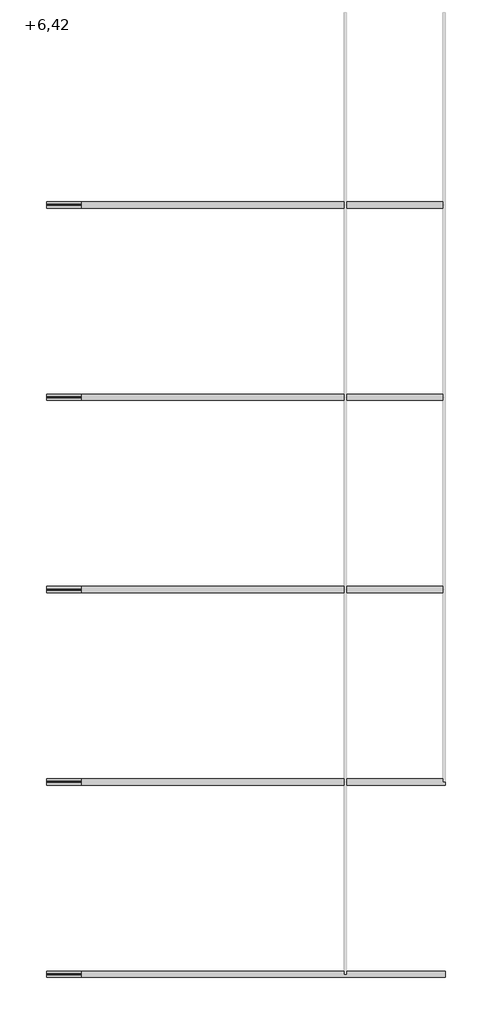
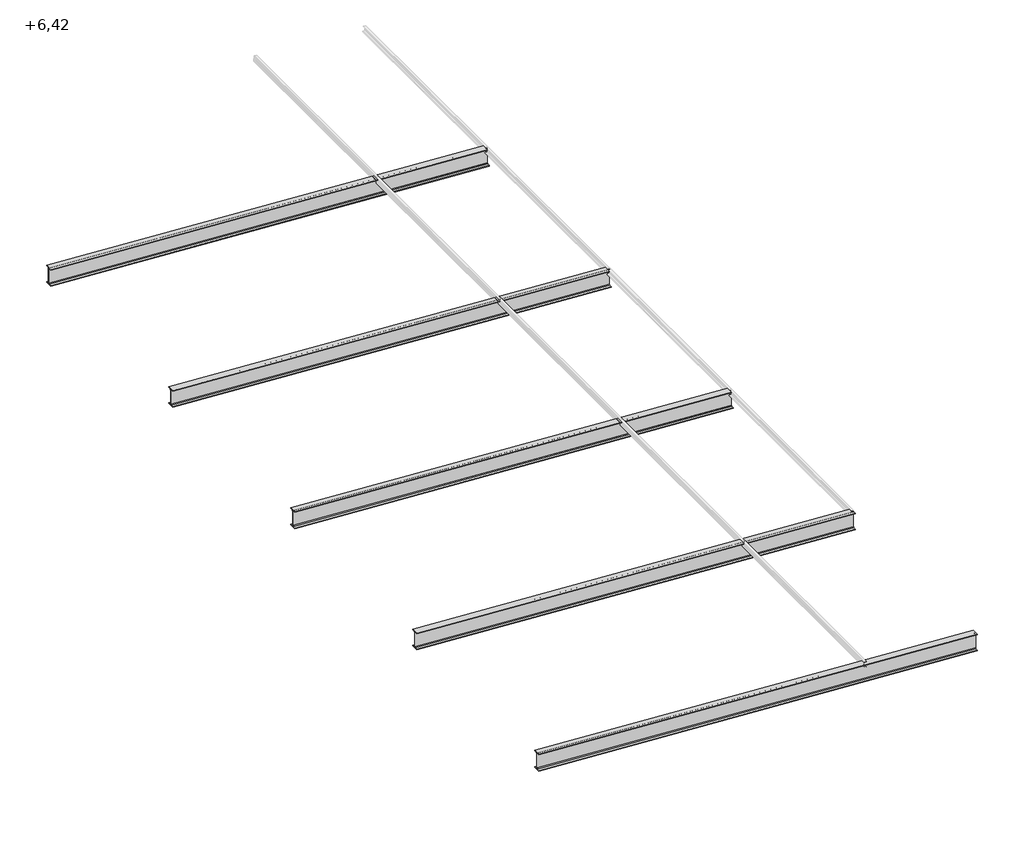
# One storey, part 1 of 2: 5 beams.
"""IFC4 building model written with IfcOpenShell, lengths in millimetres."""

from ifc_helpers import new_model, si_unit, frame, origin, place, context, project, spatial, polyline, ellipse_curve, element, save
from ifc_brep_helpers import plane_surface, revolved_surface, advanced_brep

model = new_model("IFC4")

# Units and contexts
model_context = context("Model", 3, world=origin())
ifc_project = project(units=[si_unit("LENGTHUNIT", "METRE", prefix="MILLI")], contexts=[model_context])

# Site, building, storey
site = spatial("IfcSite", under=ifc_project)
building = spatial("IfcBuilding", under=site)
storey = spatial("IfcBuildingStorey", under=building, Name="+6,42", Elevation=6424.0)

# Beams
placement = place(None, origin())
element("IfcBeam", 1, ObjectType="RPLN IPE - Dwuteowniki równoległościenne : I500PE", at=placement, inside=storey, context=model_context, shape_type="AdvancedBrep", body=[
    advanced_brep(
    [(-8321.7693703, -36886.3816585, 7205.3741212), (-8321.7693703, -36812.4816585, 7205.3741212), (-8321.766713, -36812.4816585, 7189.3447052), (-8321.766713, -37012.4816585, 7189.3447052), (-8321.7693703, -37012.4816585, 7205.3741212), (-8321.7693703, -36938.5816585, 7205.3741212), (-8321.7728579, -36917.5816585, 7226.4127298), (-8321.8436076, -36917.5816585, 7653.1959312), (-8321.8470953, -36938.5816585, 7674.2345398), (-8321.8470953, -37012.4816585, 7674.2345398), (-8321.8497525, -37012.4816585, 7690.2639558), (-8321.8497525, -36812.4816585, 7690.2639558), (-8321.8470953, -36812.4816585, 7674.2345398), (-8321.8470953, -36886.3816585, 7674.2345398), (-8321.8436076, -36907.3816585, 7653.1959312), (-8321.7728579, -36907.3816585, 7226.4127298), (4132.9926321, -36812.4816585, 6451.8610201), (4132.9926321, -36886.3816585, 6451.8610201), (4132.9926321, -36907.3816585, 6472.8994176), (4132.9926321, -36907.3816585, 6899.6783387), (4132.9926321, -36886.3816585, 6920.7167363), (4132.9926321, -36812.4816585, 6920.7167363), (4132.9926321, -36812.4816585, 6936.7459915), (4132.9926321, -37012.4816585, 6936.7459915), (4132.9926321, -37012.4816585, 6920.7167363), (4132.9926321, -36938.5816585, 6920.7167363), (4132.9926321, -36917.5816585, 6899.6783387), (4132.9926321, -36917.5816585, 6472.8994176), (4132.9926321, -36938.5816585, 6451.8610201), (4132.9926321, -37012.4816585, 6451.8610201), (4132.9926321, -37012.4816585, 6435.8317648), (4132.9926321, -36812.4816585, 6435.8317648)],
    [
        (0, 1),
        (1, 2),
        (2, 3),
        (3, 4),
        (4, 5),
        (5, 6, ellipse_curve(frame((-8321.7728579, -36938.5816585, 7226.4127298), z_axis=(0.9999999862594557, 0.0, 0.0001657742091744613), x_axis=(-0.00016577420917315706, 0.0, 0.9999999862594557)), 21.0386088, 21.0)),
        (6, 7),
        (7, 8, ellipse_curve(frame((-8321.8436076, -36938.5816585, 7653.1959312), z_axis=(0.9999999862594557, 0.0, 0.0001657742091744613), x_axis=(-0.00016577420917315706, 0.0, 0.9999999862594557)), 21.0386088, 21.0)),
        (8, 9),
        (9, 10),
        (10, 11),
        (11, 12),
        (12, 13),
        (13, 14, ellipse_curve(frame((-8321.8436076, -36886.3816585, 7653.1959312), z_axis=(0.9999999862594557, 0.0, 0.0001657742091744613), x_axis=(-0.00016577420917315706, 0.0, 0.9999999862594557)), 21.0386088, 21.0)),
        (14, 15),
        (15, 0, ellipse_curve(frame((-8321.7728579, -36886.3816585, 7226.4127298), z_axis=(0.9999999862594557, 0.0, 0.0001657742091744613), x_axis=(-0.00016577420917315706, 0.0, 0.9999999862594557)), 21.0386088, 21.0)),
        (16, 17),
        (17, 18, ellipse_curve(frame((4132.9926321, -36886.3816585, 6472.8994176), z_axis=(-1.0, 0.0, 0.0), x_axis=(0.0, 0.0, 0.9999999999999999)), 21.0383975, 21.0)),
        (18, 19),
        (19, 20, ellipse_curve(frame((4132.9926321, -36886.3816585, 6899.6783387), z_axis=(-1.0, 0.0, 0.0), x_axis=(0.0, 0.0, 0.9999999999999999)), 21.0383975, 21.0)),
        (20, 21),
        (21, 22),
        (22, 23),
        (23, 24),
        (24, 25),
        (25, 26, ellipse_curve(frame((4132.9926321, -36938.5816585, 6899.6783387), z_axis=(-1.0, 0.0, 0.0), x_axis=(0.0, 0.0, 0.9999999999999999)), 21.0383975, 21.0)),
        (26, 27),
        (27, 28, ellipse_curve(frame((4132.9926321, -36938.5816585, 6472.8994176), z_axis=(-1.0, 0.0, 0.0), x_axis=(0.0, 0.0, 0.9999999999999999)), 21.0383975, 21.0)),
        (28, 29),
        (29, 30),
        (30, 31),
        (31, 16),
        (16, 1),
        (0, 17),
        (31, 2),
        (30, 3),
        (29, 4),
        (28, 5),
        (27, 6),
        (26, 7),
        (25, 8),
        (24, 9),
        (23, 10),
        (22, 11),
        (21, 12),
        (20, 13),
        (19, 14),
        (18, 15),
    ],
    [
        plane_surface(frame((-8321.6325431, -36912.4816585, 6379.9913475), z_axis=(-0.9999999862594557, 0.0, -0.0001657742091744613), x_axis=(0.0001657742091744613, 0.0, -0.9999999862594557))),
        plane_surface(frame((4132.9926321, -36912.4816585, 6983.0025864), z_axis=(1.0, 0.0, 0.0), x_axis=(0.0, 0.0, 1.0))),
        plane_surface(frame((4227.795571, -36812.4816585, 6446.1254423), z_axis=(0.06038958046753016, 0.0, 0.9981748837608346), x_axis=(-0.9981748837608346, 0.0, 0.06038958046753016))),
        plane_surface(frame((4226.8293377, -36812.4816585, 6430.1546441), z_axis=(0.0, 1.0, 0.0), x_axis=(-0.9981748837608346, 0.0, 0.06038958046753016))),
        plane_surface(frame((4226.8293377, -37012.4816585, 6430.1546441), z_axis=(-0.06038958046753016, 0.0, -0.9981748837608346), x_axis=(-0.9981748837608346, 0.0, 0.06038958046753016))),
        plane_surface(frame((4227.795571, -37012.4816585, 6446.1254423), z_axis=(0.0, -1.0, 0.0), x_axis=(-0.9981748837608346, 0.0, 0.06038958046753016))),
        plane_surface(frame((4227.795571, -36938.5816585, 6446.1254423), z_axis=(0.06038958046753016, 0.0, 0.9981748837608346), x_axis=(-0.9981748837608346, 0.0, 0.06038958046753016))),
        revolved_surface(polyline([(-8323.044526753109, -36959.5816585, 7226.489665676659), (4134.260813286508, -36959.5816585, 6472.822692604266)]), (4229.0637522, -36938.5816585, 6467.0871148), (-0.9981748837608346, 0.0, 0.06038958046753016)),
        plane_surface(frame((4254.7897134, -36917.5816585, 6892.3096153), z_axis=(0.0, -1.0, 0.0), x_axis=(-0.9981748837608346, 0.0, 0.06038958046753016))),
        revolved_surface(polyline([(-8323.115276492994, -36959.5816585, 7653.272867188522), (4134.260813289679, -36959.5816585, 6899.601613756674)]), (4254.7897134, -36938.5816585, 6892.3096153), (-0.9981748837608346, 0.0, 0.06038958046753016)),
        plane_surface(frame((4256.0578946, -37012.4816585, 6913.2712879), z_axis=(-0.06038958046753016, 0.0, -0.9981748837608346), x_axis=(-0.9981748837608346, 0.0, 0.06038958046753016))),
        plane_surface(frame((4257.0241279, -37012.4816585, 6929.242086), z_axis=(0.0, -1.0, 0.0), x_axis=(-0.9981748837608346, 0.0, 0.06038958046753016))),
        plane_surface(frame((4257.0241279, -36812.4816585, 6929.242086), z_axis=(0.06038958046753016, 0.0, 0.9981748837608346), x_axis=(-0.9981748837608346, 0.0, 0.06038958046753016))),
        plane_surface(frame((4256.0578946, -36812.4816585, 6913.2712879), z_axis=(0.0, 1.0, 0.0), x_axis=(-0.9981748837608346, 0.0, 0.06038958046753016))),
        plane_surface(frame((4256.0578946, -36886.3816585, 6913.2712879), z_axis=(-0.06038958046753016, 0.0, -0.9981748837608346), x_axis=(-0.9981748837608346, 0.0, 0.06038958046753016))),
        revolved_surface(polyline([(-8323.115276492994, -36907.3816585, 7653.272867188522), (4134.260813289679, -36907.3816585, 6899.601613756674)]), (4254.7897134, -36886.3816585, 6892.3096153), (-0.9981748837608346, 0.0, 0.06038958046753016)),
        plane_surface(frame((4229.0637522, -36907.3816585, 6467.0871148), z_axis=(0.0, 1.0, 0.0), x_axis=(-0.9981748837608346, 0.0, 0.06038958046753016))),
        revolved_surface(polyline([(-8323.044526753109, -36907.3816585, 7226.489665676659), (4134.260813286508, -36907.3816585, 6472.822692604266)]), (4229.0637522, -36886.3816585, 6467.0871148), (-0.9981748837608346, 0.0, 0.06038958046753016)),
    ],
    [
        (0, [[1, 2, 3, 4, 5, 6, 7, 8, 9, 10, 11, 12, 13, 14, 15, 16]]),
        (1, [[17, 18, 19, 20, 21, 22, 23, 24, 25, 26, 27, 28, 29, 30, 31, 32]]),
        (2, [[33, -1, 34, -17]]),
        (3, [[35, -2, -33, -32]]),
        (4, [[36, -3, -35, -31]]),
        (5, [[37, -4, -36, -30]]),
        (6, [[38, -5, -37, -29]]),
        (7, [[39, -6, -38, -28]]),
        (8, [[40, -7, -39, -27]]),
        (9, [[41, -8, -40, -26]]),
        (10, [[42, -9, -41, -25]]),
        (11, [[43, -10, -42, -24]]),
        (12, [[44, -11, -43, -23]]),
        (13, [[45, -12, -44, -22]]),
        (14, [[46, -13, -45, -21]]),
        (15, [[47, -14, -46, -20]]),
        (16, [[48, -15, -47, -19]]),
        (17, [[-34, -16, -48, -18]]),
    ],
),
])
element("IfcBeam", 2, ObjectType="RPLN IPE - Dwuteowniki równoległościenne : I500PE", at=placement, inside=storey, context=model_context, shape_type="AdvancedBrep", body=[
    advanced_brep(
    [(-8321.7693703, -30886.3816585, 7205.3741212), (-8321.7693703, -30812.4816585, 7205.3741212), (-8321.766713, -30812.4816585, 7189.3447052), (-8321.766713, -31012.4816585, 7189.3447052), (-8321.7693703, -31012.4816585, 7205.3741212), (-8321.7693703, -30938.5816585, 7205.3741212), (-8321.7728579, -30917.5816585, 7226.4127298), (-8321.8436076, -30917.5816585, 7653.1959312), (-8321.8470953, -30938.5816585, 7674.2345398), (-8321.8470953, -31012.4816585, 7674.2345398), (-8321.8497525, -31012.4816585, 7690.2639558), (-8321.8497525, -30812.4816585, 7690.2639558), (-8321.8470953, -30812.4816585, 7674.2345398), (-8321.8470953, -30886.3816585, 7674.2345398), (-8321.8436076, -30907.3816585, 7653.1959312), (-8321.7728579, -30907.3816585, 7226.4127298), (4132.9926321, -30812.4816585, 6451.8610201), (4132.9926321, -30886.3816585, 6451.8610201), (4132.9926321, -30907.3816585, 6472.8994176), (4132.9926321, -30907.3816585, 6899.6783387), (4132.9926321, -30886.3816585, 6920.7167363), (4132.9926321, -30812.4816585, 6920.7167363), (4132.9926321, -30812.4816585, 6936.7459915), (4132.9926321, -31012.4816585, 6936.7459915), (4132.9926321, -31012.4816585, 6920.7167363), (4132.9926321, -30938.5816585, 6920.7167363), (4132.9926321, -30917.5816585, 6899.6783387), (4132.9926321, -30917.5816585, 6472.8994176), (4132.9926321, -30938.5816585, 6451.8610201), (4132.9926321, -31012.4816585, 6451.8610201), (4132.9926321, -31012.4816585, 6435.8317648), (4132.9926321, -30812.4816585, 6435.8317648)],
    [
        (0, 1),
        (1, 2),
        (2, 3),
        (3, 4),
        (4, 5),
        (5, 6, ellipse_curve(frame((-8321.7728579, -30938.5816585, 7226.4127298), z_axis=(0.9999999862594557, 0.0, 0.0001657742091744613), x_axis=(-0.00016577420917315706, 0.0, 0.9999999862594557)), 21.0386088, 21.0)),
        (6, 7),
        (7, 8, ellipse_curve(frame((-8321.8436076, -30938.5816585, 7653.1959312), z_axis=(0.9999999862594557, 0.0, 0.0001657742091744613), x_axis=(-0.00016577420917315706, 0.0, 0.9999999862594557)), 21.0386088, 21.0)),
        (8, 9),
        (9, 10),
        (10, 11),
        (11, 12),
        (12, 13),
        (13, 14, ellipse_curve(frame((-8321.8436076, -30886.3816585, 7653.1959312), z_axis=(0.9999999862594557, 0.0, 0.0001657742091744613), x_axis=(-0.00016577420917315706, 0.0, 0.9999999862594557)), 21.0386088, 21.0)),
        (14, 15),
        (15, 0, ellipse_curve(frame((-8321.7728579, -30886.3816585, 7226.4127298), z_axis=(0.9999999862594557, 0.0, 0.0001657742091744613), x_axis=(-0.00016577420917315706, 0.0, 0.9999999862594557)), 21.0386088, 21.0)),
        (16, 17),
        (17, 18, ellipse_curve(frame((4132.9926321, -30886.3816585, 6472.8994176), z_axis=(-1.0, 0.0, 0.0), x_axis=(0.0, 0.0, 0.9999999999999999)), 21.0383975, 21.0)),
        (18, 19),
        (19, 20, ellipse_curve(frame((4132.9926321, -30886.3816585, 6899.6783387), z_axis=(-1.0, 0.0, 0.0), x_axis=(0.0, 0.0, 0.9999999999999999)), 21.0383975, 21.0)),
        (20, 21),
        (21, 22),
        (22, 23),
        (23, 24),
        (24, 25),
        (25, 26, ellipse_curve(frame((4132.9926321, -30938.5816585, 6899.6783387), z_axis=(-1.0, 0.0, 0.0), x_axis=(0.0, 0.0, 0.9999999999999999)), 21.0383975, 21.0)),
        (26, 27),
        (27, 28, ellipse_curve(frame((4132.9926321, -30938.5816585, 6472.8994176), z_axis=(-1.0, 0.0, 0.0), x_axis=(0.0, 0.0, 0.9999999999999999)), 21.0383975, 21.0)),
        (28, 29),
        (29, 30),
        (30, 31),
        (31, 16),
        (16, 1),
        (0, 17),
        (31, 2),
        (30, 3),
        (29, 4),
        (28, 5),
        (27, 6),
        (26, 7),
        (25, 8),
        (24, 9),
        (23, 10),
        (22, 11),
        (21, 12),
        (20, 13),
        (19, 14),
        (18, 15),
    ],
    [
        plane_surface(frame((-8321.6325431, -36912.4816585, 6379.9913475), z_axis=(-0.9999999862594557, 0.0, -0.0001657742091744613), x_axis=(0.0001657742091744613, 0.0, -0.9999999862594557))),
        plane_surface(frame((4132.9926321, -36912.4816585, 6983.0025864), z_axis=(1.0, 0.0, 0.0), x_axis=(0.0, 0.0, 1.0))),
        plane_surface(frame((4227.795571, -30812.4816585, 6446.1254423), z_axis=(0.06038958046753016, 0.0, 0.9981748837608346), x_axis=(-0.9981748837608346, 0.0, 0.06038958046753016))),
        plane_surface(frame((4226.8293377, -30812.4816585, 6430.1546441), z_axis=(0.0, 1.0, 0.0), x_axis=(-0.9981748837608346, 0.0, 0.06038958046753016))),
        plane_surface(frame((4226.8293377, -31012.4816585, 6430.1546441), z_axis=(-0.06038958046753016, 0.0, -0.9981748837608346), x_axis=(-0.9981748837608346, 0.0, 0.06038958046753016))),
        plane_surface(frame((4227.795571, -31012.4816585, 6446.1254423), z_axis=(0.0, -1.0, 0.0), x_axis=(-0.9981748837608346, 0.0, 0.06038958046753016))),
        plane_surface(frame((4227.795571, -30938.5816585, 6446.1254423), z_axis=(0.06038958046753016, 0.0, 0.9981748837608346), x_axis=(-0.9981748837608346, 0.0, 0.06038958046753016))),
        revolved_surface(polyline([(-8323.044526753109, -30959.5816585, 7226.489665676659), (4134.260813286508, -30959.5816585, 6472.822692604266)]), (4229.0637522, -30938.5816585, 6467.0871148), (-0.9981748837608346, 0.0, 0.06038958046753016)),
        plane_surface(frame((4254.7897134, -30917.5816585, 6892.3096153), z_axis=(0.0, -1.0, 0.0), x_axis=(-0.9981748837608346, 0.0, 0.06038958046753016))),
        revolved_surface(polyline([(-8323.115276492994, -30959.5816585, 7653.272867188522), (4134.260813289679, -30959.5816585, 6899.601613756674)]), (4254.7897134, -30938.5816585, 6892.3096153), (-0.9981748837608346, 0.0, 0.06038958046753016)),
        plane_surface(frame((4256.0578946, -31012.4816585, 6913.2712879), z_axis=(-0.06038958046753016, 0.0, -0.9981748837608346), x_axis=(-0.9981748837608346, 0.0, 0.06038958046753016))),
        plane_surface(frame((4257.0241279, -31012.4816585, 6929.242086), z_axis=(0.0, -1.0, 0.0), x_axis=(-0.9981748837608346, 0.0, 0.06038958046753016))),
        plane_surface(frame((4257.0241279, -30812.4816585, 6929.242086), z_axis=(0.06038958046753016, 0.0, 0.9981748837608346), x_axis=(-0.9981748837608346, 0.0, 0.06038958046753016))),
        plane_surface(frame((4256.0578946, -30812.4816585, 6913.2712879), z_axis=(0.0, 1.0, 0.0), x_axis=(-0.9981748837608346, 0.0, 0.06038958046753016))),
        plane_surface(frame((4256.0578946, -30886.3816585, 6913.2712879), z_axis=(-0.06038958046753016, 0.0, -0.9981748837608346), x_axis=(-0.9981748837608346, 0.0, 0.06038958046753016))),
        revolved_surface(polyline([(-8323.115276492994, -30907.3816585, 7653.272867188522), (4134.260813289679, -30907.3816585, 6899.601613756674)]), (4254.7897134, -30886.3816585, 6892.3096153), (-0.9981748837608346, 0.0, 0.06038958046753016)),
        plane_surface(frame((4229.0637522, -30907.3816585, 6467.0871148), z_axis=(0.0, 1.0, 0.0), x_axis=(-0.9981748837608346, 0.0, 0.06038958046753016))),
        revolved_surface(polyline([(-8323.044526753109, -30907.3816585, 7226.489665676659), (4134.260813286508, -30907.3816585, 6472.822692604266)]), (4229.0637522, -30886.3816585, 6467.0871148), (-0.9981748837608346, 0.0, 0.06038958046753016)),
    ],
    [
        (0, [[1, 2, 3, 4, 5, 6, 7, 8, 9, 10, 11, 12, 13, 14, 15, 16]]),
        (1, [[17, 18, 19, 20, 21, 22, 23, 24, 25, 26, 27, 28, 29, 30, 31, 32]]),
        (2, [[33, -1, 34, -17]]),
        (3, [[35, -2, -33, -32]]),
        (4, [[36, -3, -35, -31]]),
        (5, [[37, -4, -36, -30]]),
        (6, [[38, -5, -37, -29]]),
        (7, [[39, -6, -38, -28]]),
        (8, [[40, -7, -39, -27]]),
        (9, [[41, -8, -40, -26]]),
        (10, [[42, -9, -41, -25]]),
        (11, [[43, -10, -42, -24]]),
        (12, [[44, -11, -43, -23]]),
        (13, [[45, -12, -44, -22]]),
        (14, [[46, -13, -45, -21]]),
        (15, [[47, -14, -46, -20]]),
        (16, [[48, -15, -47, -19]]),
        (17, [[-34, -16, -48, -18]]),
    ],
),
])
element("IfcBeam", 3, ObjectType="RPLN IPE - Dwuteowniki równoległościenne : I500PE", at=placement, inside=storey, context=model_context, shape_type="AdvancedBrep", body=[
    advanced_brep(
    [(-8321.7693703, -24886.3816585, 7205.3741212), (-8321.7693703, -24812.4816585, 7205.3741212), (-8321.766713, -24812.4816585, 7189.3447052), (-8321.766713, -25012.4816585, 7189.3447052), (-8321.7693703, -25012.4816585, 7205.3741212), (-8321.7693703, -24938.5816585, 7205.3741212), (-8321.7728579, -24917.5816585, 7226.4127298), (-8321.8436076, -24917.5816585, 7653.1959312), (-8321.8470953, -24938.5816585, 7674.2345398), (-8321.8470953, -25012.4816585, 7674.2345398), (-8321.8497525, -25012.4816585, 7690.2639558), (-8321.8497525, -24812.4816585, 7690.2639558), (-8321.8470953, -24812.4816585, 7674.2345398), (-8321.8470953, -24886.3816585, 7674.2345398), (-8321.8436076, -24907.3816585, 7653.1959312), (-8321.7728579, -24907.3816585, 7226.4127298), (4132.9926321, -24812.4816585, 6451.8610201), (4132.9926321, -24886.3816585, 6451.8610201), (4132.9926321, -24907.3816585, 6472.8994176), (4132.9926321, -24907.3816585, 6899.6783387), (4132.9926321, -24886.3816585, 6920.7167363), (4132.9926321, -24812.4816585, 6920.7167363), (4132.9926321, -24812.4816585, 6936.7459915), (4132.9926321, -25012.4816585, 6936.7459915), (4132.9926321, -25012.4816585, 6920.7167363), (4132.9926321, -24938.5816585, 6920.7167363), (4132.9926321, -24917.5816585, 6899.6783387), (4132.9926321, -24917.5816585, 6472.8994176), (4132.9926321, -24938.5816585, 6451.8610201), (4132.9926321, -25012.4816585, 6451.8610201), (4132.9926321, -25012.4816585, 6435.8317648), (4132.9926321, -24812.4816585, 6435.8317648)],
    [
        (0, 1),
        (1, 2),
        (2, 3),
        (3, 4),
        (4, 5),
        (5, 6, ellipse_curve(frame((-8321.7728579, -24938.5816585, 7226.4127298), z_axis=(0.9999999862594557, 0.0, 0.0001657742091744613), x_axis=(-0.00016577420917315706, 0.0, 0.9999999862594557)), 21.0386088, 21.0)),
        (6, 7),
        (7, 8, ellipse_curve(frame((-8321.8436076, -24938.5816585, 7653.1959312), z_axis=(0.9999999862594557, 0.0, 0.0001657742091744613), x_axis=(-0.00016577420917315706, 0.0, 0.9999999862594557)), 21.0386088, 21.0)),
        (8, 9),
        (9, 10),
        (10, 11),
        (11, 12),
        (12, 13),
        (13, 14, ellipse_curve(frame((-8321.8436076, -24886.3816585, 7653.1959312), z_axis=(0.9999999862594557, 0.0, 0.0001657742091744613), x_axis=(-0.00016577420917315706, 0.0, 0.9999999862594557)), 21.0386088, 21.0)),
        (14, 15),
        (15, 0, ellipse_curve(frame((-8321.7728579, -24886.3816585, 7226.4127298), z_axis=(0.9999999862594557, 0.0, 0.0001657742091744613), x_axis=(-0.00016577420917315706, 0.0, 0.9999999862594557)), 21.0386088, 21.0)),
        (16, 17),
        (17, 18, ellipse_curve(frame((4132.9926321, -24886.3816585, 6472.8994176), z_axis=(-1.0, 0.0, 0.0), x_axis=(0.0, 0.0, 0.9999999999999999)), 21.0383975, 21.0)),
        (18, 19),
        (19, 20, ellipse_curve(frame((4132.9926321, -24886.3816585, 6899.6783387), z_axis=(-1.0, 0.0, 0.0), x_axis=(0.0, 0.0, 0.9999999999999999)), 21.0383975, 21.0)),
        (20, 21),
        (21, 22),
        (22, 23),
        (23, 24),
        (24, 25),
        (25, 26, ellipse_curve(frame((4132.9926321, -24938.5816585, 6899.6783387), z_axis=(-1.0, 0.0, 0.0), x_axis=(0.0, 0.0, 0.9999999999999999)), 21.0383975, 21.0)),
        (26, 27),
        (27, 28, ellipse_curve(frame((4132.9926321, -24938.5816585, 6472.8994176), z_axis=(-1.0, 0.0, 0.0), x_axis=(0.0, 0.0, 0.9999999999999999)), 21.0383975, 21.0)),
        (28, 29),
        (29, 30),
        (30, 31),
        (31, 16),
        (16, 1),
        (0, 17),
        (31, 2),
        (30, 3),
        (29, 4),
        (28, 5),
        (27, 6),
        (26, 7),
        (25, 8),
        (24, 9),
        (23, 10),
        (22, 11),
        (21, 12),
        (20, 13),
        (19, 14),
        (18, 15),
    ],
    [
        plane_surface(frame((-8321.6325431, -36912.4816585, 6379.9913475), z_axis=(-0.9999999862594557, 0.0, -0.0001657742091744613), x_axis=(0.0001657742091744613, 0.0, -0.9999999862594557))),
        plane_surface(frame((4132.9926321, -36912.4816585, 6983.0025864), z_axis=(1.0, 0.0, 0.0), x_axis=(0.0, 0.0, 1.0))),
        plane_surface(frame((4227.795571, -24812.4816585, 6446.1254423), z_axis=(0.06038958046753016, 0.0, 0.9981748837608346), x_axis=(-0.9981748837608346, 0.0, 0.06038958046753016))),
        plane_surface(frame((4226.8293377, -24812.4816585, 6430.1546441), z_axis=(0.0, 1.0, 0.0), x_axis=(-0.9981748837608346, 0.0, 0.06038958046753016))),
        plane_surface(frame((4226.8293377, -25012.4816585, 6430.1546441), z_axis=(-0.06038958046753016, 0.0, -0.9981748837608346), x_axis=(-0.9981748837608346, 0.0, 0.06038958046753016))),
        plane_surface(frame((4227.795571, -25012.4816585, 6446.1254423), z_axis=(0.0, -1.0, 0.0), x_axis=(-0.9981748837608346, 0.0, 0.06038958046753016))),
        plane_surface(frame((4227.795571, -24938.5816585, 6446.1254423), z_axis=(0.06038958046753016, 0.0, 0.9981748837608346), x_axis=(-0.9981748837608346, 0.0, 0.06038958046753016))),
        revolved_surface(polyline([(-8323.044526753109, -24959.5816585, 7226.489665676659), (4134.260813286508, -24959.5816585, 6472.822692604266)]), (4229.0637522, -24938.5816585, 6467.0871148), (-0.9981748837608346, 0.0, 0.06038958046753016)),
        plane_surface(frame((4254.7897134, -24917.5816585, 6892.3096153), z_axis=(0.0, -1.0, 0.0), x_axis=(-0.9981748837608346, 0.0, 0.06038958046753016))),
        revolved_surface(polyline([(-8323.115276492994, -24959.5816585, 7653.272867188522), (4134.260813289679, -24959.5816585, 6899.601613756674)]), (4254.7897134, -24938.5816585, 6892.3096153), (-0.9981748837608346, 0.0, 0.06038958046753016)),
        plane_surface(frame((4256.0578946, -25012.4816585, 6913.2712879), z_axis=(-0.06038958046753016, 0.0, -0.9981748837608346), x_axis=(-0.9981748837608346, 0.0, 0.06038958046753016))),
        plane_surface(frame((4257.0241279, -25012.4816585, 6929.242086), z_axis=(0.0, -1.0, 0.0), x_axis=(-0.9981748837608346, 0.0, 0.06038958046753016))),
        plane_surface(frame((4257.0241279, -24812.4816585, 6929.242086), z_axis=(0.06038958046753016, 0.0, 0.9981748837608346), x_axis=(-0.9981748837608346, 0.0, 0.06038958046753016))),
        plane_surface(frame((4256.0578946, -24812.4816585, 6913.2712879), z_axis=(0.0, 1.0, 0.0), x_axis=(-0.9981748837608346, 0.0, 0.06038958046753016))),
        plane_surface(frame((4256.0578946, -24886.3816585, 6913.2712879), z_axis=(-0.06038958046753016, 0.0, -0.9981748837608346), x_axis=(-0.9981748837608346, 0.0, 0.06038958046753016))),
        revolved_surface(polyline([(-8323.115276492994, -24907.3816585, 7653.272867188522), (4134.260813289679, -24907.3816585, 6899.601613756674)]), (4254.7897134, -24886.3816585, 6892.3096153), (-0.9981748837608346, 0.0, 0.06038958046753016)),
        plane_surface(frame((4229.0637522, -24907.3816585, 6467.0871148), z_axis=(0.0, 1.0, 0.0), x_axis=(-0.9981748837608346, 0.0, 0.06038958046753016))),
        revolved_surface(polyline([(-8323.044526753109, -24907.3816585, 7226.489665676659), (4134.260813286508, -24907.3816585, 6472.822692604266)]), (4229.0637522, -24886.3816585, 6467.0871148), (-0.9981748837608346, 0.0, 0.06038958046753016)),
    ],
    [
        (0, [[1, 2, 3, 4, 5, 6, 7, 8, 9, 10, 11, 12, 13, 14, 15, 16]]),
        (1, [[17, 18, 19, 20, 21, 22, 23, 24, 25, 26, 27, 28, 29, 30, 31, 32]]),
        (2, [[33, -1, 34, -17]]),
        (3, [[35, -2, -33, -32]]),
        (4, [[36, -3, -35, -31]]),
        (5, [[37, -4, -36, -30]]),
        (6, [[38, -5, -37, -29]]),
        (7, [[39, -6, -38, -28]]),
        (8, [[40, -7, -39, -27]]),
        (9, [[41, -8, -40, -26]]),
        (10, [[42, -9, -41, -25]]),
        (11, [[43, -10, -42, -24]]),
        (12, [[44, -11, -43, -23]]),
        (13, [[45, -12, -44, -22]]),
        (14, [[46, -13, -45, -21]]),
        (15, [[47, -14, -46, -20]]),
        (16, [[48, -15, -47, -19]]),
        (17, [[-34, -16, -48, -18]]),
    ],
),
])
element("IfcBeam", 4, ObjectType="RPLN IPE - Dwuteowniki równoległościenne : I500PE", at=placement, inside=storey, context=model_context, shape_type="AdvancedBrep", body=[
    advanced_brep(
    [(-8321.7693703, -18886.3816585, 7205.3741212), (-8321.7693703, -18812.4816585, 7205.3741212), (-8321.766713, -18812.4816585, 7189.3447052), (-8321.766713, -19012.4816585, 7189.3447052), (-8321.7693703, -19012.4816585, 7205.3741212), (-8321.7693703, -18938.5816585, 7205.3741212), (-8321.7728579, -18917.5816585, 7226.4127298), (-8321.8436076, -18917.5816585, 7653.1959312), (-8321.8470953, -18938.5816585, 7674.2345398), (-8321.8470953, -19012.4816585, 7674.2345398), (-8321.8497525, -19012.4816585, 7690.2639558), (-8321.8497525, -18812.4816585, 7690.2639558), (-8321.8470953, -18812.4816585, 7674.2345398), (-8321.8470953, -18886.3816585, 7674.2345398), (-8321.8436076, -18907.3816585, 7653.1959312), (-8321.7728579, -18907.3816585, 7226.4127298), (4132.9926321, -18812.4816585, 6451.8610201), (4132.9926321, -18886.3816585, 6451.8610201), (4132.9926321, -18907.3816585, 6472.8994176), (4132.9926321, -18907.3816585, 6899.6783387), (4132.9926321, -18886.3816585, 6920.7167363), (4132.9926321, -18812.4816585, 6920.7167363), (4132.9926321, -18812.4816585, 6936.7459915), (4132.9926321, -19012.4816585, 6936.7459915), (4132.9926321, -19012.4816585, 6920.7167363), (4132.9926321, -18938.5816585, 6920.7167363), (4132.9926321, -18917.5816585, 6899.6783387), (4132.9926321, -18917.5816585, 6472.8994176), (4132.9926321, -18938.5816585, 6451.8610201), (4132.9926321, -19012.4816585, 6451.8610201), (4132.9926321, -19012.4816585, 6435.8317648), (4132.9926321, -18812.4816585, 6435.8317648)],
    [
        (0, 1),
        (1, 2),
        (2, 3),
        (3, 4),
        (4, 5),
        (5, 6, ellipse_curve(frame((-8321.7728579, -18938.5816585, 7226.4127298), z_axis=(0.9999999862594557, 0.0, 0.0001657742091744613), x_axis=(-0.00016577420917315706, 0.0, 0.9999999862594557)), 21.0386088, 21.0)),
        (6, 7),
        (7, 8, ellipse_curve(frame((-8321.8436076, -18938.5816585, 7653.1959312), z_axis=(0.9999999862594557, 0.0, 0.0001657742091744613), x_axis=(-0.00016577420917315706, 0.0, 0.9999999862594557)), 21.0386088, 21.0)),
        (8, 9),
        (9, 10),
        (10, 11),
        (11, 12),
        (12, 13),
        (13, 14, ellipse_curve(frame((-8321.8436076, -18886.3816585, 7653.1959312), z_axis=(0.9999999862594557, 0.0, 0.0001657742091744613), x_axis=(-0.00016577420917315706, 0.0, 0.9999999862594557)), 21.0386088, 21.0)),
        (14, 15),
        (15, 0, ellipse_curve(frame((-8321.7728579, -18886.3816585, 7226.4127298), z_axis=(0.9999999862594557, 0.0, 0.0001657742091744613), x_axis=(-0.00016577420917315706, 0.0, 0.9999999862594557)), 21.0386088, 21.0)),
        (16, 17),
        (17, 18, ellipse_curve(frame((4132.9926321, -18886.3816585, 6472.8994176), z_axis=(-1.0, 0.0, 0.0), x_axis=(0.0, 0.0, 0.9999999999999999)), 21.0383975, 21.0)),
        (18, 19),
        (19, 20, ellipse_curve(frame((4132.9926321, -18886.3816585, 6899.6783387), z_axis=(-1.0, 0.0, 0.0), x_axis=(0.0, 0.0, 0.9999999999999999)), 21.0383975, 21.0)),
        (20, 21),
        (21, 22),
        (22, 23),
        (23, 24),
        (24, 25),
        (25, 26, ellipse_curve(frame((4132.9926321, -18938.5816585, 6899.6783387), z_axis=(-1.0, 0.0, 0.0), x_axis=(0.0, 0.0, 0.9999999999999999)), 21.0383975, 21.0)),
        (26, 27),
        (27, 28, ellipse_curve(frame((4132.9926321, -18938.5816585, 6472.8994176), z_axis=(-1.0, 0.0, 0.0), x_axis=(0.0, 0.0, 0.9999999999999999)), 21.0383975, 21.0)),
        (28, 29),
        (29, 30),
        (30, 31),
        (31, 16),
        (16, 1),
        (0, 17),
        (31, 2),
        (30, 3),
        (29, 4),
        (28, 5),
        (27, 6),
        (26, 7),
        (25, 8),
        (24, 9),
        (23, 10),
        (22, 11),
        (21, 12),
        (20, 13),
        (19, 14),
        (18, 15),
    ],
    [
        plane_surface(frame((-8321.6325431, -36912.4816585, 6379.9913475), z_axis=(-0.9999999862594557, 0.0, -0.0001657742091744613), x_axis=(0.0001657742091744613, 0.0, -0.9999999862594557))),
        plane_surface(frame((4132.9926321, -36912.4816585, 6983.0025864), z_axis=(1.0, 0.0, 0.0), x_axis=(0.0, 0.0, 1.0))),
        plane_surface(frame((4227.795571, -18812.4816585, 6446.1254423), z_axis=(0.06038958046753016, 0.0, 0.9981748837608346), x_axis=(-0.9981748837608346, 0.0, 0.06038958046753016))),
        plane_surface(frame((4226.8293377, -18812.4816585, 6430.1546441), z_axis=(0.0, 1.0, 0.0), x_axis=(-0.9981748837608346, 0.0, 0.06038958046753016))),
        plane_surface(frame((4226.8293377, -19012.4816585, 6430.1546441), z_axis=(-0.06038958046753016, 0.0, -0.9981748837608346), x_axis=(-0.9981748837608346, 0.0, 0.06038958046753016))),
        plane_surface(frame((4227.795571, -19012.4816585, 6446.1254423), z_axis=(0.0, -1.0, 0.0), x_axis=(-0.9981748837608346, 0.0, 0.06038958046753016))),
        plane_surface(frame((4227.795571, -18938.5816585, 6446.1254423), z_axis=(0.06038958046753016, 0.0, 0.9981748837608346), x_axis=(-0.9981748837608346, 0.0, 0.06038958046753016))),
        revolved_surface(polyline([(-8323.044526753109, -18959.5816585, 7226.489665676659), (4134.260813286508, -18959.5816585, 6472.822692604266)]), (4229.0637522, -18938.5816585, 6467.0871148), (-0.9981748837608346, 0.0, 0.06038958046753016)),
        plane_surface(frame((4254.7897134, -18917.5816585, 6892.3096153), z_axis=(0.0, -1.0, 0.0), x_axis=(-0.9981748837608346, 0.0, 0.06038958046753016))),
        revolved_surface(polyline([(-8323.115276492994, -18959.5816585, 7653.272867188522), (4134.260813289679, -18959.5816585, 6899.601613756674)]), (4254.7897134, -18938.5816585, 6892.3096153), (-0.9981748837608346, 0.0, 0.06038958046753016)),
        plane_surface(frame((4256.0578946, -19012.4816585, 6913.2712879), z_axis=(-0.06038958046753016, 0.0, -0.9981748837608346), x_axis=(-0.9981748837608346, 0.0, 0.06038958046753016))),
        plane_surface(frame((4257.0241279, -19012.4816585, 6929.242086), z_axis=(0.0, -1.0, 0.0), x_axis=(-0.9981748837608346, 0.0, 0.06038958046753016))),
        plane_surface(frame((4257.0241279, -18812.4816585, 6929.242086), z_axis=(0.06038958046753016, 0.0, 0.9981748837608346), x_axis=(-0.9981748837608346, 0.0, 0.06038958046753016))),
        plane_surface(frame((4256.0578946, -18812.4816585, 6913.2712879), z_axis=(0.0, 1.0, 0.0), x_axis=(-0.9981748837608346, 0.0, 0.06038958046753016))),
        plane_surface(frame((4256.0578946, -18886.3816585, 6913.2712879), z_axis=(-0.06038958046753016, 0.0, -0.9981748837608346), x_axis=(-0.9981748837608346, 0.0, 0.06038958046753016))),
        revolved_surface(polyline([(-8323.115276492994, -18907.3816585, 7653.272867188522), (4134.260813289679, -18907.3816585, 6899.601613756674)]), (4254.7897134, -18886.3816585, 6892.3096153), (-0.9981748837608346, 0.0, 0.06038958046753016)),
        plane_surface(frame((4229.0637522, -18907.3816585, 6467.0871148), z_axis=(0.0, 1.0, 0.0), x_axis=(-0.9981748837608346, 0.0, 0.06038958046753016))),
        revolved_surface(polyline([(-8323.044526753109, -18907.3816585, 7226.489665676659), (4134.260813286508, -18907.3816585, 6472.822692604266)]), (4229.0637522, -18886.3816585, 6467.0871148), (-0.9981748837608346, 0.0, 0.06038958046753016)),
    ],
    [
        (0, [[1, 2, 3, 4, 5, 6, 7, 8, 9, 10, 11, 12, 13, 14, 15, 16]]),
        (1, [[17, 18, 19, 20, 21, 22, 23, 24, 25, 26, 27, 28, 29, 30, 31, 32]]),
        (2, [[33, -1, 34, -17]]),
        (3, [[35, -2, -33, -32]]),
        (4, [[36, -3, -35, -31]]),
        (5, [[37, -4, -36, -30]]),
        (6, [[38, -5, -37, -29]]),
        (7, [[39, -6, -38, -28]]),
        (8, [[40, -7, -39, -27]]),
        (9, [[41, -8, -40, -26]]),
        (10, [[42, -9, -41, -25]]),
        (11, [[43, -10, -42, -24]]),
        (12, [[44, -11, -43, -23]]),
        (13, [[45, -12, -44, -22]]),
        (14, [[46, -13, -45, -21]]),
        (15, [[47, -14, -46, -20]]),
        (16, [[48, -15, -47, -19]]),
        (17, [[-34, -16, -48, -18]]),
    ],
),
])
element("IfcBeam", 5, ObjectType="RPLN IPE - Dwuteowniki równoległościenne : I500PE", at=placement, inside=storey, context=model_context, shape_type="AdvancedBrep", body=[
    advanced_brep(
    [(-8321.7693703, -12886.3816585, 7205.3741212), (-8321.7693703, -12812.4816585, 7205.3741212), (-8321.766713, -12812.4816585, 7189.3447052), (-8321.766713, -13012.4816585, 7189.3447052), (-8321.7693703, -13012.4816585, 7205.3741212), (-8321.7693703, -12938.5816585, 7205.3741212), (-8321.7728579, -12917.5816585, 7226.4127298), (-8321.8436076, -12917.5816585, 7653.1959312), (-8321.8470953, -12938.5816585, 7674.2345398), (-8321.8470953, -13012.4816585, 7674.2345398), (-8321.8497525, -13012.4816585, 7690.2639558), (-8321.8497525, -12812.4816585, 7690.2639558), (-8321.8470953, -12812.4816585, 7674.2345398), (-8321.8470953, -12886.3816585, 7674.2345398), (-8321.8436076, -12907.3816585, 7653.1959312), (-8321.7728579, -12907.3816585, 7226.4127298), (4132.9926321, -12812.4816585, 6451.8610201), (4132.9926321, -12886.3816585, 6451.8610201), (4132.9926321, -12907.3816585, 6472.8994176), (4132.9926321, -12907.3816585, 6899.6783387), (4132.9926321, -12886.3816585, 6920.7167363), (4132.9926321, -12812.4816585, 6920.7167363), (4132.9926321, -12812.4816585, 6936.7459915), (4132.9926321, -13012.4816585, 6936.7459915), (4132.9926321, -13012.4816585, 6920.7167363), (4132.9926321, -12938.5816585, 6920.7167363), (4132.9926321, -12917.5816585, 6899.6783387), (4132.9926321, -12917.5816585, 6472.8994176), (4132.9926321, -12938.5816585, 6451.8610201), (4132.9926321, -13012.4816585, 6451.8610201), (4132.9926321, -13012.4816585, 6435.8317648), (4132.9926321, -12812.4816585, 6435.8317648)],
    [
        (0, 1),
        (1, 2),
        (2, 3),
        (3, 4),
        (4, 5),
        (5, 6, ellipse_curve(frame((-8321.7728579, -12938.5816585, 7226.4127298), z_axis=(0.9999999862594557, 0.0, 0.0001657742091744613), x_axis=(-0.00016577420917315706, 0.0, 0.9999999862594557)), 21.0386088, 21.0)),
        (6, 7),
        (7, 8, ellipse_curve(frame((-8321.8436076, -12938.5816585, 7653.1959312), z_axis=(0.9999999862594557, 0.0, 0.0001657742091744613), x_axis=(-0.00016577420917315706, 0.0, 0.9999999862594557)), 21.0386088, 21.0)),
        (8, 9),
        (9, 10),
        (10, 11),
        (11, 12),
        (12, 13),
        (13, 14, ellipse_curve(frame((-8321.8436076, -12886.3816585, 7653.1959312), z_axis=(0.9999999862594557, 0.0, 0.0001657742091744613), x_axis=(-0.00016577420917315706, 0.0, 0.9999999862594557)), 21.0386088, 21.0)),
        (14, 15),
        (15, 0, ellipse_curve(frame((-8321.7728579, -12886.3816585, 7226.4127298), z_axis=(0.9999999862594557, 0.0, 0.0001657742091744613), x_axis=(-0.00016577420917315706, 0.0, 0.9999999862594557)), 21.0386088, 21.0)),
        (16, 17),
        (17, 18, ellipse_curve(frame((4132.9926321, -12886.3816585, 6472.8994176), z_axis=(-1.0, 0.0, 0.0), x_axis=(0.0, 0.0, 0.9999999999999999)), 21.0383975, 21.0)),
        (18, 19),
        (19, 20, ellipse_curve(frame((4132.9926321, -12886.3816585, 6899.6783387), z_axis=(-1.0, 0.0, 0.0), x_axis=(0.0, 0.0, 0.9999999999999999)), 21.0383975, 21.0)),
        (20, 21),
        (21, 22),
        (22, 23),
        (23, 24),
        (24, 25),
        (25, 26, ellipse_curve(frame((4132.9926321, -12938.5816585, 6899.6783387), z_axis=(-1.0, 0.0, 0.0), x_axis=(0.0, 0.0, 0.9999999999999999)), 21.0383975, 21.0)),
        (26, 27),
        (27, 28, ellipse_curve(frame((4132.9926321, -12938.5816585, 6472.8994176), z_axis=(-1.0, 0.0, 0.0), x_axis=(0.0, 0.0, 0.9999999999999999)), 21.0383975, 21.0)),
        (28, 29),
        (29, 30),
        (30, 31),
        (31, 16),
        (16, 1),
        (0, 17),
        (31, 2),
        (30, 3),
        (29, 4),
        (28, 5),
        (27, 6),
        (26, 7),
        (25, 8),
        (24, 9),
        (23, 10),
        (22, 11),
        (21, 12),
        (20, 13),
        (19, 14),
        (18, 15),
    ],
    [
        plane_surface(frame((-8321.6325431, -36912.4816585, 6379.9913475), z_axis=(-0.9999999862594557, 0.0, -0.0001657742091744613), x_axis=(0.0001657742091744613, 0.0, -0.9999999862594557))),
        plane_surface(frame((4132.9926321, -36912.4816585, 6983.0025864), z_axis=(1.0, 0.0, 0.0), x_axis=(0.0, 0.0, 1.0))),
        plane_surface(frame((4227.795571, -12812.4816585, 6446.1254423), z_axis=(0.06038958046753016, 0.0, 0.9981748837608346), x_axis=(-0.9981748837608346, 0.0, 0.06038958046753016))),
        plane_surface(frame((4226.8293377, -12812.4816585, 6430.1546441), z_axis=(0.0, 1.0, 0.0), x_axis=(-0.9981748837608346, 0.0, 0.06038958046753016))),
        plane_surface(frame((4226.8293377, -13012.4816585, 6430.1546441), z_axis=(-0.06038958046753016, 0.0, -0.9981748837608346), x_axis=(-0.9981748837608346, 0.0, 0.06038958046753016))),
        plane_surface(frame((4227.795571, -13012.4816585, 6446.1254423), z_axis=(0.0, -1.0, 0.0), x_axis=(-0.9981748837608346, 0.0, 0.06038958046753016))),
        plane_surface(frame((4227.795571, -12938.5816585, 6446.1254423), z_axis=(0.06038958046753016, 0.0, 0.9981748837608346), x_axis=(-0.9981748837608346, 0.0, 0.06038958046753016))),
        revolved_surface(polyline([(-8323.044526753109, -12959.5816585, 7226.489665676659), (4134.260813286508, -12959.5816585, 6472.822692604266)]), (4229.0637522, -12938.5816585, 6467.0871148), (-0.9981748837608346, 0.0, 0.06038958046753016)),
        plane_surface(frame((4254.7897134, -12917.5816585, 6892.3096153), z_axis=(0.0, -1.0, 0.0), x_axis=(-0.9981748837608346, 0.0, 0.06038958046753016))),
        revolved_surface(polyline([(-8323.115276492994, -12959.5816585, 7653.272867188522), (4134.260813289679, -12959.5816585, 6899.601613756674)]), (4254.7897134, -12938.5816585, 6892.3096153), (-0.9981748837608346, 0.0, 0.06038958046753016)),
        plane_surface(frame((4256.0578946, -13012.4816585, 6913.2712879), z_axis=(-0.06038958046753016, 0.0, -0.9981748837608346), x_axis=(-0.9981748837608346, 0.0, 0.06038958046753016))),
        plane_surface(frame((4257.0241279, -13012.4816585, 6929.242086), z_axis=(0.0, -1.0, 0.0), x_axis=(-0.9981748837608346, 0.0, 0.06038958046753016))),
        plane_surface(frame((4257.0241279, -12812.4816585, 6929.242086), z_axis=(0.06038958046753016, 0.0, 0.9981748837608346), x_axis=(-0.9981748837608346, 0.0, 0.06038958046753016))),
        plane_surface(frame((4256.0578946, -12812.4816585, 6913.2712879), z_axis=(0.0, 1.0, 0.0), x_axis=(-0.9981748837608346, 0.0, 0.06038958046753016))),
        plane_surface(frame((4256.0578946, -12886.3816585, 6913.2712879), z_axis=(-0.06038958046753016, 0.0, -0.9981748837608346), x_axis=(-0.9981748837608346, 0.0, 0.06038958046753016))),
        revolved_surface(polyline([(-8323.115276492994, -12907.3816585, 7653.272867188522), (4134.260813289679, -12907.3816585, 6899.601613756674)]), (4254.7897134, -12886.3816585, 6892.3096153), (-0.9981748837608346, 0.0, 0.06038958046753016)),
        plane_surface(frame((4229.0637522, -12907.3816585, 6467.0871148), z_axis=(0.0, 1.0, 0.0), x_axis=(-0.9981748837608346, 0.0, 0.06038958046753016))),
        revolved_surface(polyline([(-8323.044526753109, -12907.3816585, 7226.489665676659), (4134.260813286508, -12907.3816585, 6472.822692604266)]), (4229.0637522, -12886.3816585, 6467.0871148), (-0.9981748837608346, 0.0, 0.06038958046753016)),
    ],
    [
        (0, [[1, 2, 3, 4, 5, 6, 7, 8, 9, 10, 11, 12, 13, 14, 15, 16]]),
        (1, [[17, 18, 19, 20, 21, 22, 23, 24, 25, 26, 27, 28, 29, 30, 31, 32]]),
        (2, [[33, -1, 34, -17]]),
        (3, [[35, -2, -33, -32]]),
        (4, [[36, -3, -35, -31]]),
        (5, [[37, -4, -36, -30]]),
        (6, [[38, -5, -37, -29]]),
        (7, [[39, -6, -38, -28]]),
        (8, [[40, -7, -39, -27]]),
        (9, [[41, -8, -40, -26]]),
        (10, [[42, -9, -41, -25]]),
        (11, [[43, -10, -42, -24]]),
        (12, [[44, -11, -43, -23]]),
        (13, [[45, -12, -44, -22]]),
        (14, [[46, -13, -45, -21]]),
        (15, [[47, -14, -46, -20]]),
        (16, [[48, -15, -47, -19]]),
        (17, [[-34, -16, -48, -18]]),
    ],
),
])

save(model, "model.ifc")
